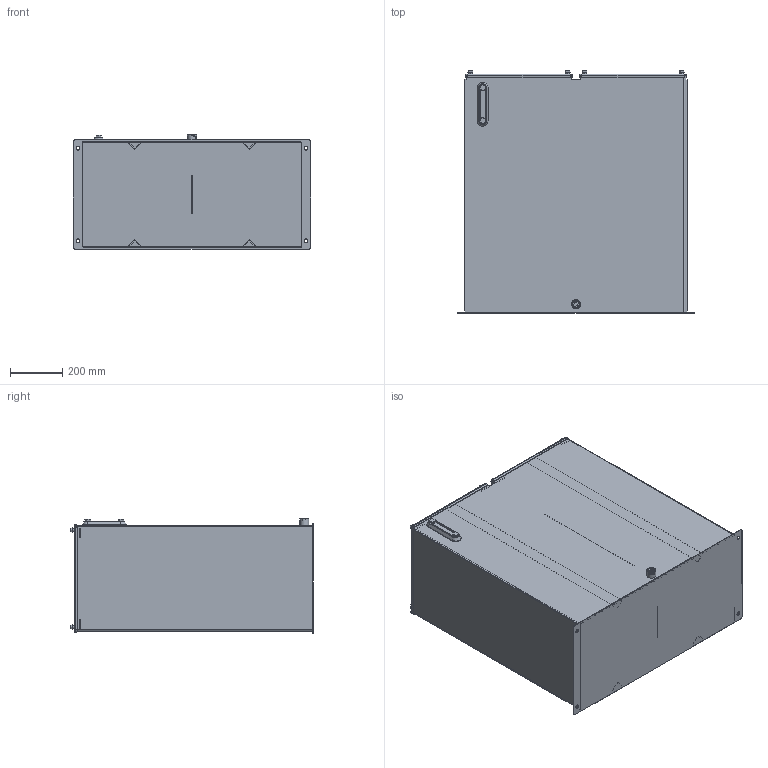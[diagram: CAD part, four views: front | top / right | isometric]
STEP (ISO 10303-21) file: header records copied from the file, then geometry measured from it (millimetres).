
FILE_DESCRIPTION (( 'STEP AP203' ), '1' );
FILE_NAME ('RDVS60-2.STEP', '2015-01-08T15:29:57', ( '' ), ( '' ), 'SwSTEP 2.0', 'SolidWorks 2014', '' );
FILE_SCHEMA (( 'CONFIG_CONTROL_DESIGN' ));
Length unit declared in the file: inch
Products named in the file (1): RDVS60-2
Bounding box: 914.4 x 932.84 x 438.15 mm (x, y, z)
Volume: 10110669.9 mm3; surface area: 6684914.1 mm2
Topology: 46 solids, 46 shells, 757 faces, 1740 edges, 1098 vertices
Faces by surface type: plane 371, cylinder 206, cone 110, torus 70
Entity records: 21455 total; most frequent: DIRECTION 3924, CARTESIAN_POINT 3608, ORIENTED_EDGE 3480, EDGE_CURVE 1740, AXIS2_PLACEMENT_3D 1430, VERTEX_POINT 1098, LINE 1064, VECTOR 1064
